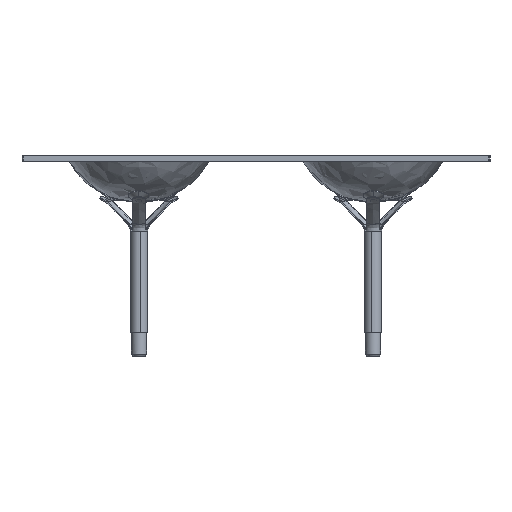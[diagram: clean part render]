
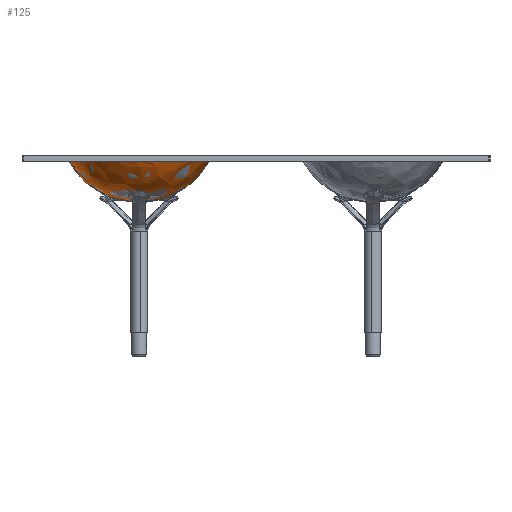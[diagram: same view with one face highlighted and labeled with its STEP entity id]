
A CAD part, left-side view. The second image highlights one B-rep face of the part: STEP entity #125.
In plain terms, the highlighted free-form (B-spline) face has degree [3, 3] with [7, 7] control points.
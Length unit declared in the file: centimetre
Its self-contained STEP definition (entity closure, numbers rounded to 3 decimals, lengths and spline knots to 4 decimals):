
#125=ADVANCED_FACE($,(#483),#4211,.T.);
#483=FACE_OUTER_BOUND($,#845,.T.);
#845=EDGE_LOOP($,(#1356,#1357,#1358));
#1356=ORIENTED_EDGE($,*,*,#2753,.T.);
#1357=ORIENTED_EDGE($,*,*,#2723,.F.);
#1358=ORIENTED_EDGE($,*,*,#2724,.F.);
#2723=EDGE_CURVE($,#3451,#3444,#4679,.T.);
#2724=EDGE_CURVE($,#3443,#3451,#4680,.T.);
#2753=EDGE_CURVE($,#3443,#3444,#4227,.T.);
#3443=VERTEX_POINT($,#12547);
#3444=VERTEX_POINT($,#12548);
#3451=VERTEX_POINT($,#12555);
#4211=B_SPLINE_SURFACE_WITH_KNOTS($,3,3,((#10376,#10377,#10378,#10379,#10380,
#10381,#10382),(#10383,#10384,#10385,#10386,#10387,#10388,#10389),(#10390,
#10391,#10392,#10393,#10394,#10395,#10396),(#10397,#10398,#10399,#10400,
#10401,#10402,#10403),(#10404,#10405,#10406,#10407,#10408,#10409,#10410),
(#10411,#10412,#10413,#10414,#10415,#10416,#10417),(#10418,#10419,#10420,
#10421,#10422,#10423,#10424)),.UNSPECIFIED.,.F.,.F.,.F.,(4,1,1,1,4),(4,1,
1,1,4),(0.,1.82,3.6399,5.4599,7.2799),
(0.,8.3178,16.6356,22.1037,27.5718),
.UNSPECIFIED.);
#4227=(
BOUNDED_CURVE()
B_SPLINE_CURVE(3,(#6129,#6130,#6131,#6132,#6133,#6134,#6135,#6136,#6137,
#6138,#6139,#6140,#6141,#6142,#6143,#6144,#6145,#6146,#6147,#6148,#6149,
#6150),.UNSPECIFIED.,.F.,.F.)
B_SPLINE_CURVE_WITH_KNOTS((4,1,1,1,1,1,1,1,1,1,1,1,1,1,1,1,1,1,1,4),(0.,
0.3947,0.7893,1.5259,3.4298,5.3337,
8.5076,10.5527,12.5978,14.6428,16.6879,
18.2748,19.8617,21.7691,23.6765,24.4243,
24.6173,24.8103,25.0033,25.1964),.UNSPECIFIED.)
CURVE()
GEOMETRIC_REPRESENTATION_ITEM()
RATIONAL_B_SPLINE_CURVE((1.,1.,1.,1.,1.,1.,1.,1.,1.,1.,1.,
1.,1.,1.,1.,1.,1.,1.,1.,1.,1.,1.))
REPRESENTATION_ITEM($)
);
#4679=B_SPLINE_CURVE_WITH_KNOTS($,3,(#5780,#5781,#5782,#5783,#5784,#5785,
#5786),.UNSPECIFIED.,.F.,.F.,(4,1,1,1,4),(0.,8.3178,16.6356,
22.1037,27.5718),.UNSPECIFIED.);
#4680=B_SPLINE_CURVE_WITH_KNOTS($,3,(#5787,#5788,#5789,#5790,#5791,#5792,
#5793),.UNSPECIFIED.,.F.,.F.,(4,1,1,1,4),(-27.5718,-22.1037,
-16.6356,-8.3178,0.),.UNSPECIFIED.);
#5780=CARTESIAN_POINT($,(-2.,54.,33.3078));
#5781=CARTESIAN_POINT($,(-2.,50.9388,33.3078));
#5782=CARTESIAN_POINT($,(0.5098,44.5193,33.3078));
#5783=CARTESIAN_POINT($,(9.1819,41.2838,33.3078));
#5784=CARTESIAN_POINT($,(15.5854,42.8135,33.3078));
#5785=CARTESIAN_POINT($,(18.3005,45.4725,33.3078));
#5786=CARTESIAN_POINT($,(19.7101,46.6563,33.3078));
#5787=CARTESIAN_POINT($,(19.7101,61.3437,33.3078));
#5788=CARTESIAN_POINT($,(18.3005,62.5275,33.3078));
#5789=CARTESIAN_POINT($,(15.5854,65.1865,33.3078));
#5790=CARTESIAN_POINT($,(9.1819,66.7162,33.3078));
#5791=CARTESIAN_POINT($,(0.5098,63.4807,33.3078));
#5792=CARTESIAN_POINT($,(-2.,57.0612,33.3078));
#5793=CARTESIAN_POINT($,(-2.,54.,33.3078));
#6129=CARTESIAN_POINT($,(19.7101,61.3437,33.3078));
#6130=CARTESIAN_POINT($,(19.5971,61.3059,33.1769));
#6131=CARTESIAN_POINT($,(19.4706,61.2142,32.9758));
#6132=CARTESIAN_POINT($,(19.293,61.0181,32.6304));
#6133=CARTESIAN_POINT($,(19.0473,60.5879,32.0196));
#6134=CARTESIAN_POINT($,(18.8113,59.842,31.2349));
#6135=CARTESIAN_POINT($,(18.5591,58.5472,30.2543));
#6136=CARTESIAN_POINT($,(18.4061,57.0538,29.557));
#6137=CARTESIAN_POINT($,(18.3227,55.4113,29.1627));
#6138=CARTESIAN_POINT($,(18.2996,54.0006,29.0518));
#6139=CARTESIAN_POINT($,(18.323,52.5882,29.163));
#6140=CARTESIAN_POINT($,(18.3875,51.3071,29.4698));
#6141=CARTESIAN_POINT($,(18.4844,50.184,29.913));
#6142=CARTESIAN_POINT($,(18.6162,49.1597,30.4766));
#6143=CARTESIAN_POINT($,(18.8116,48.1566,31.2361));
#6144=CARTESIAN_POINT($,(19.0488,47.4079,32.0242));
#6145=CARTESIAN_POINT($,(19.2803,47.0051,32.5982));
#6146=CARTESIAN_POINT($,(19.4059,46.8568,32.8505));
#6147=CARTESIAN_POINT($,(19.4797,46.7845,32.9857));
#6148=CARTESIAN_POINT($,(19.571,46.716,33.1321));
#6149=CARTESIAN_POINT($,(19.6518,46.6744,33.2419));
#6150=CARTESIAN_POINT($,(19.7101,46.6563,33.3078));
#10376=CARTESIAN_POINT($,(-2.,54.,33.3078));
#10377=CARTESIAN_POINT($,(-2.,50.9388,33.3078));
#10378=CARTESIAN_POINT($,(0.5098,44.5193,33.3078));
#10379=CARTESIAN_POINT($,(9.1819,41.2838,33.3078));
#10380=CARTESIAN_POINT($,(15.5854,42.8135,33.3078));
#10381=CARTESIAN_POINT($,(18.3005,45.4725,33.3078));
#10382=CARTESIAN_POINT($,(19.7101,46.6563,33.3078));
#10383=CARTESIAN_POINT($,(-2.,54.,33.3078));
#10384=CARTESIAN_POINT($,(-1.6468,51.1449,32.6832));
#10385=CARTESIAN_POINT($,(1.2808,45.3547,31.6433));
#10386=CARTESIAN_POINT($,(9.086,42.5182,31.0803));
#10387=CARTESIAN_POINT($,(15.531,43.9924,31.4029));
#10388=CARTESIAN_POINT($,(18.3481,46.4664,32.0001));
#10389=CARTESIAN_POINT($,(19.7101,47.6182,32.3645));
#10390=CARTESIAN_POINT($,(-2.,54.,33.3078));
#10391=CARTESIAN_POINT($,(-1.0379,51.9964,31.6063));
#10392=CARTESIAN_POINT($,(2.4373,48.1021,28.6967));
#10393=CARTESIAN_POINT($,(8.9422,46.2697,27.2154));
#10394=CARTESIAN_POINT($,(15.4494,47.3493,28.1589));
#10395=CARTESIAN_POINT($,(18.4197,49.0837,29.8199));
#10396=CARTESIAN_POINT($,(19.7101,49.9345,30.8377));
#10397=CARTESIAN_POINT($,(-2.,54.,33.3078));
#10398=CARTESIAN_POINT($,(-0.7098,53.9996,31.0262));
#10399=CARTESIAN_POINT($,(3.0155,53.999,27.0897));
#10400=CARTESIAN_POINT($,(8.8703,53.999,25.1278));
#10401=CARTESIAN_POINT($,(15.4086,53.9993,26.4229));
#10402=CARTESIAN_POINT($,(18.4554,53.9998,28.6664));
#10403=CARTESIAN_POINT($,(19.7101,54.,30.0428));
#10404=CARTESIAN_POINT($,(-2.,54.,33.3078));
#10405=CARTESIAN_POINT($,(-1.0382,56.0052,31.6068));
#10406=CARTESIAN_POINT($,(2.4373,59.9017,28.6984));
#10407=CARTESIAN_POINT($,(8.9422,61.7344,27.2173));
#10408=CARTESIAN_POINT($,(15.4494,60.6533,28.1601));
#10409=CARTESIAN_POINT($,(18.4197,58.9173,29.8204));
#10410=CARTESIAN_POINT($,(19.7101,58.0654,30.8377));
#10411=CARTESIAN_POINT($,(-2.,54.,33.3078));
#10412=CARTESIAN_POINT($,(-1.6469,56.8552,32.6834));
#10413=CARTESIAN_POINT($,(1.2808,62.6457,31.6439));
#10414=CARTESIAN_POINT($,(9.086,65.4822,31.081));
#10415=CARTESIAN_POINT($,(15.531,64.0079,31.4034));
#10416=CARTESIAN_POINT($,(18.3481,61.5337,32.0003));
#10417=CARTESIAN_POINT($,(19.7101,60.3818,32.3645));
#10418=CARTESIAN_POINT($,(-2.,54.,33.3078));
#10419=CARTESIAN_POINT($,(-2.,57.0612,33.3078));
#10420=CARTESIAN_POINT($,(0.5098,63.4807,33.3078));
#10421=CARTESIAN_POINT($,(9.1819,66.7162,33.3078));
#10422=CARTESIAN_POINT($,(15.5854,65.1865,33.3078));
#10423=CARTESIAN_POINT($,(18.3005,62.5275,33.3078));
#10424=CARTESIAN_POINT($,(19.7101,61.3437,33.3078));
#12547=CARTESIAN_POINT($,(19.7101,61.3437,33.3078));
#12548=CARTESIAN_POINT($,(19.7101,46.6563,33.3078));
#12555=CARTESIAN_POINT($,(-2.,54.,33.3078));
